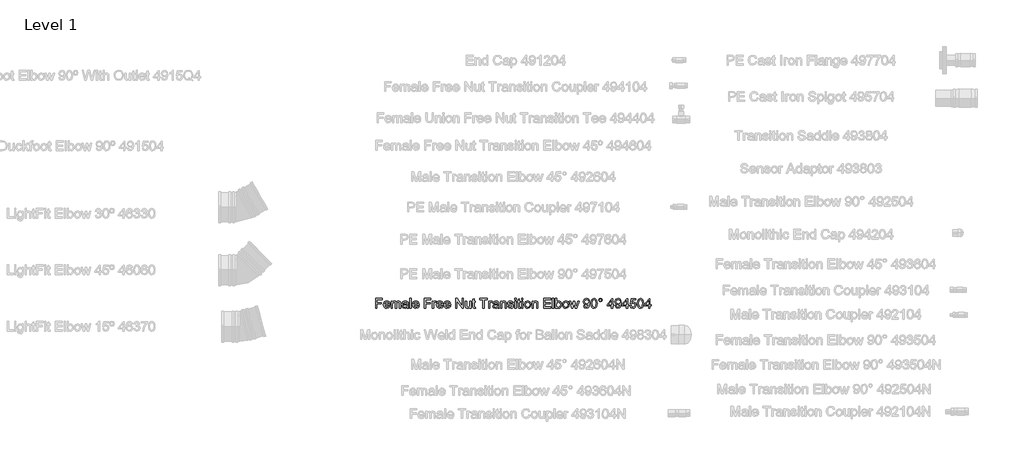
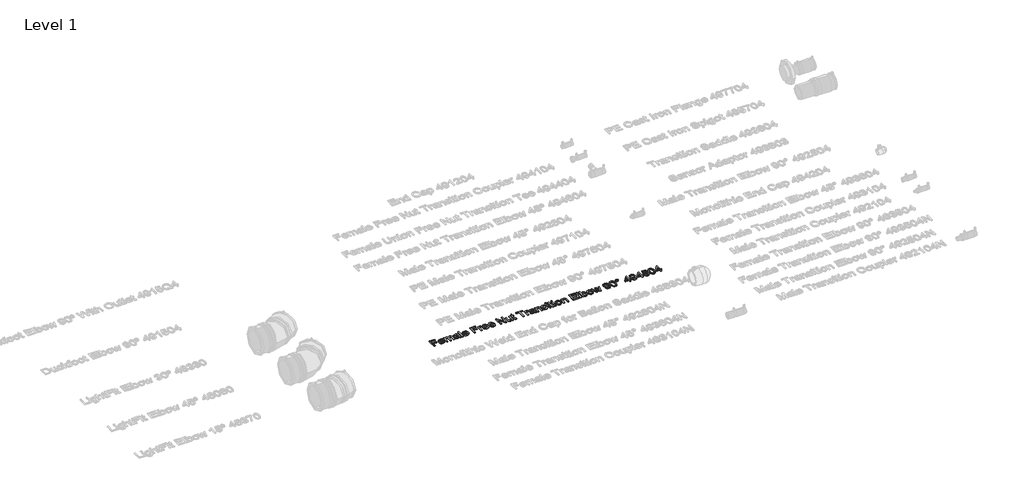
# One storey, part 20 of 38: 1 proxy.
"""IFC4 building model written with IfcOpenShell, lengths in millimetres."""

from ifc_helpers import new_model, si_unit, origin, origin_with_axes, place, context, project, spatial, polyline, outline, extrude, element, save

model = new_model("IFC4")

# Units and contexts
model_context = context("Model", 3, world=origin())
ifc_project = project(units=[si_unit("LENGTHUNIT", "METRE", prefix="MILLI")], contexts=[model_context])

# Site, building, storey
site = spatial("IfcSite", under=ifc_project)
building = spatial("IfcBuilding", under=site)
storey = spatial("IfcBuildingStorey", under=building, Name="Level 1", Elevation=0.0)

# Proxy
placement = place(None, origin())
element("IfcBuildingElementProxy", 1, Name="100 mm Arial", ObjectType="100 mm Arial", at=placement, inside=storey, context=model_context, shape_type="SweptSolid", body=[
    extrude(outline(polyline([(15478.6595524, 3604.446795), (15478.6595524, 3663.523718), (15518.3518601, 3663.523718), (15518.3518601, 3656.1391027), (15486.0441677, 3656.1391027), (15486.0441677, 3638.6006411), (15513.7364754, 3638.6006411), (15513.7364754, 3631.2160257), (15486.0441677, 3631.2160257), (15486.0441677, 3604.446795), (15478.6595524, 3604.446795)])), origin_with_axes(), (0.0, 0.0, 1.0), 5.0),
    extrude(outline(polyline([(15557.9576293, 3617.3698719), (15565.1980139, 3616.446795), (15558.4263793, 3606.9131411), (15545.8133985, 3603.523718), (15537.1487351, 3604.9858575), (15530.4816677, 3609.3722757), (15526.2304658, 3616.3981171), (15524.8133985, 3625.7785257), (15526.2448889, 3635.4744392), (15530.5393601, 3642.7256411), (15537.1162831, 3647.2472757), (15545.3951293, 3648.7544873), (15553.4161629, 3647.2508815), (15559.8254177, 3642.7400642), (15564.0279418, 3635.5032853), (15565.4287831, 3625.821795), (15565.3855139, 3623.8314103), (15532.1980139, 3623.8314103), (15536.4456101, 3614.2400642), (15545.9576293, 3610.9083334), (15553.1980139, 3612.4516027), (15557.9576293, 3617.3698719)]), holes=[polyline([(15532.1980139, 3631.2160257), (15558.0441677, 3631.2160257), (15555.087437, 3637.9083334), (15545.3662831, 3641.3698719), (15536.2725331, 3638.6078527), (15532.1980139, 3631.2160257)])]), origin_with_axes(), (0.0, 0.0, 1.0), 5.0),
    extrude(outline(polyline([(15572.8133985, 3604.446795), (15572.8133985, 3647.8314103), (15580.1980139, 3647.8314103), (15580.1980139, 3640.6919873), (15585.274937, 3646.540545), (15592.5008985, 3648.7544873), (15599.899937, 3646.4972757), (15603.9672447, 3640.1727565), (15609.7292639, 3646.6090546), (15617.0057062, 3648.7544873), (15626.6619562, 3645.1847757), (15630.0441677, 3634.1871796), (15630.0441677, 3604.446795), (15622.6595524, 3604.446795), (15622.6595524, 3631.0141027), (15621.9744562, 3637.179968), (15619.493687, 3640.2160257), (15615.274937, 3641.3698719), (15608.0129177, 3638.4131411), (15605.1210908, 3628.9371796), (15605.1210908, 3604.446795), (15597.7364754, 3604.446795), (15597.7364754, 3631.836218), (15596.0273408, 3638.9900642), (15590.4239754, 3641.3698719), (15584.9576293, 3639.7833334), (15581.3230139, 3635.1391027), (15580.1980139, 3626.3266027), (15580.1980139, 3604.446795), (15572.8133985, 3604.446795)])), origin_with_axes(), (0.0, 0.0, 1.0), 5.0),
    extrude(outline(polyline([(15668.8133985, 3609.9852565), (15661.6523408, 3604.9804488), (15653.7412831, 3603.523718), (15643.0177254, 3607.0285257), (15639.274937, 3615.9852565), (15640.6883985, 3621.8266027), (15644.4023408, 3626.0669873), (15649.5730139, 3628.4900642), (15655.962437, 3629.6006411), (15668.7701293, 3632.1391027), (15668.8133985, 3633.7833334), (15666.7797447, 3639.2352565), (15658.6162831, 3641.3698719), (15651.1451293, 3639.9491988), (15647.5826293, 3634.9083334), (15640.1980139, 3635.8314103), (15643.3927254, 3643.0429488), (15649.8254177, 3647.2689103), (15659.5682062, 3648.7544873), (15668.5177254, 3647.4419873), (15673.5730139, 3644.1463142), (15675.837437, 3639.134295), (15676.1980139, 3632.6727565), (15676.1980139, 3623.4852565), (15676.5730139, 3610.6559296), (15678.0441677, 3604.446795), (15670.6595524, 3604.446795), (15668.8133985, 3609.9852565)]), holes=[polyline([(15668.8133985, 3624.7544873), (15656.899937, 3622.4900642), (15650.5465716, 3621.2929488), (15647.6691677, 3619.3458334), (15646.6595524, 3616.5044873), (15648.8590716, 3612.509295), (15655.3133985, 3610.9083334), (15662.7845524, 3612.6751603), (15667.6018601, 3616.9516027), (15668.7701293, 3622.6631411), (15668.8133985, 3624.7544873)])]), origin_with_axes(), (0.0, 0.0, 1.0), 5.0),
    extrude(outline(polyline([(15686.3518601, 3604.446795), (15686.3518601, 3663.523718), (15693.7364754, 3663.523718), (15693.7364754, 3604.446795), (15686.3518601, 3604.446795)])), origin_with_axes(), (0.0, 0.0, 1.0), 5.0),
    extrude(outline(polyline([(15735.1883985, 3617.3698719), (15742.4287831, 3616.446795), (15735.6571485, 3606.9131411), (15723.0441677, 3603.523718), (15714.3795043, 3604.9858575), (15707.712437, 3609.3722757), (15703.4612351, 3616.3981171), (15702.0441677, 3625.7785257), (15703.4756581, 3635.4744392), (15707.7701293, 3642.7256411), (15714.3470524, 3647.2472757), (15722.6258985, 3648.7544873), (15730.6469322, 3647.2508815), (15737.056187, 3642.7400642), (15741.258711, 3635.5032853), (15742.6595524, 3625.821795), (15742.6162831, 3623.8314103), (15709.4287831, 3623.8314103), (15713.6763793, 3614.2400642), (15723.1883985, 3610.9083334), (15730.4287831, 3612.4516027), (15735.1883985, 3617.3698719)]), holes=[polyline([(15709.4287831, 3631.2160257), (15735.274937, 3631.2160257), (15732.3182062, 3637.9083334), (15722.5970524, 3641.3698719), (15713.5033024, 3638.6078527), (15709.4287831, 3631.2160257)])]), origin_with_axes(), (0.0, 0.0, 1.0), 5.0),
    extrude(outline(polyline([(15774.0441677, 3604.446795), (15774.0441677, 3663.523718), (15813.7364754, 3663.523718), (15813.7364754, 3656.1391027), (15781.4287831, 3656.1391027), (15781.4287831, 3638.6006411), (15809.1210908, 3638.6006411), (15809.1210908, 3631.2160257), (15781.4287831, 3631.2160257), (15781.4287831, 3604.446795), (15774.0441677, 3604.446795)])), origin_with_axes(), (0.0, 0.0, 1.0), 5.0),
    extrude(outline(polyline([(15822.9672447, 3604.446795), (15822.9672447, 3647.8314103), (15829.4287831, 3647.8314103), (15829.4287831, 3641.4131411), (15834.0153216, 3647.3266027), (15838.6307062, 3648.7544873), (15846.0441677, 3646.4756411), (15843.5778216, 3639.8554488), (15838.3855139, 3641.3698719), (15834.2100331, 3639.9131411), (15831.5489754, 3635.8746796), (15830.3518601, 3627.2496796), (15830.3518601, 3604.446795), (15822.9672447, 3604.446795)])), origin_with_axes(), (0.0, 0.0, 1.0), 5.0),
    extrude(outline(polyline([(15881.0345524, 3617.3698719), (15888.274937, 3616.446795), (15881.5033024, 3606.9131411), (15868.8903216, 3603.523718), (15860.2256581, 3604.9858575), (15853.5585908, 3609.3722757), (15849.3073889, 3616.3981171), (15847.8903216, 3625.7785257), (15849.321812, 3635.4744392), (15853.6162831, 3642.7256411), (15860.1932062, 3647.2472757), (15868.4720524, 3648.7544873), (15876.493086, 3647.2508815), (15882.9023408, 3642.7400642), (15887.1048649, 3635.5032853), (15888.5057062, 3625.821795), (15888.462437, 3623.8314103), (15855.274937, 3623.8314103), (15859.5225331, 3614.2400642), (15869.0345524, 3610.9083334), (15876.274937, 3612.4516027), (15881.0345524, 3617.3698719)]), holes=[polyline([(15855.274937, 3631.2160257), (15881.1210908, 3631.2160257), (15878.1643601, 3637.9083334), (15868.4432062, 3641.3698719), (15859.3494562, 3638.6078527), (15855.274937, 3631.2160257)])]), origin_with_axes(), (0.0, 0.0, 1.0), 5.0),
    extrude(outline(polyline([(15926.2653216, 3617.3698719), (15933.5057062, 3616.446795), (15926.7340716, 3606.9131411), (15914.1210908, 3603.523718), (15905.4564274, 3604.9858575), (15898.7893601, 3609.3722757), (15894.5381581, 3616.3981171), (15893.1210908, 3625.7785257), (15894.5525812, 3635.4744392), (15898.8470524, 3642.7256411), (15905.4239754, 3647.2472757), (15913.7028216, 3648.7544873), (15921.7238552, 3647.2508815), (15928.1331101, 3642.7400642), (15932.3356341, 3635.5032853), (15933.7364754, 3625.821795), (15933.6932062, 3623.8314103), (15900.5057062, 3623.8314103), (15904.7533024, 3614.2400642), (15914.2653216, 3610.9083334), (15921.5057062, 3612.4516027), (15926.2653216, 3617.3698719)]), holes=[polyline([(15900.5057062, 3631.2160257), (15926.3518601, 3631.2160257), (15923.3951293, 3637.9083334), (15913.6739754, 3641.3698719), (15904.5802254, 3638.6078527), (15900.5057062, 3631.2160257)])]), origin_with_axes(), (0.0, 0.0, 1.0), 5.0),
    extrude(outline(polyline([(15965.1210908, 3604.446795), (15965.1210908, 3663.523718), (15973.024937, 3663.523718), (16003.8903216, 3616.7208334), (16003.8903216, 3663.523718), (16011.274937, 3663.523718), (16011.274937, 3604.446795), (16003.3710908, 3604.446795), (15972.5057062, 3651.2641027), (15972.5057062, 3604.446795), (15965.1210908, 3604.446795)])), origin_with_axes(), (0.0, 0.0, 1.0), 5.0),
    extrude(outline(polyline([(16050.9672447, 3604.446795), (16050.9672447, 3611.9035257), (16045.1835908, 3605.61867), (16037.6403216, 3603.523718), (16030.6956101, 3604.9948719), (16025.9071485, 3608.6871796), (16023.7076293, 3614.1246796), (16023.274937, 3620.9900642), (16023.274937, 3647.8314103), (16030.6595524, 3647.8314103), (16030.6595524, 3624.4660257), (16031.1066677, 3616.9371796), (16034.0273408, 3612.5165065), (16039.5297447, 3610.9083334), (16045.6956101, 3612.5525642), (16049.7701293, 3617.0309296), (16050.9672447, 3625.259295), (16050.9672447, 3647.8314103), (16058.3518601, 3647.8314103), (16058.3518601, 3604.446795), (16050.9672447, 3604.446795)])), origin_with_axes(), (0.0, 0.0, 1.0), 5.0),
    extrude(outline(polyline([(16084.1980139, 3610.6054488), (16085.1210908, 3604.2304488), (16079.5970524, 3603.523718), (16073.4095524, 3604.7496796), (16070.3230139, 3607.9660257), (16069.4287831, 3616.3458334), (16069.4287831, 3640.446795), (16063.8903216, 3640.446795), (16063.8903216, 3647.8314103), (16069.4287831, 3647.8314103), (16069.4287831, 3658.3746796), (16076.8133985, 3662.7160257), (16076.8133985, 3647.8314103), (16084.1980139, 3647.8314103), (16084.1980139, 3640.446795), (16076.8133985, 3640.446795), (16076.8133985, 3616.5621796), (16077.2028216, 3612.7544873), (16078.4648408, 3611.4059296), (16080.9816677, 3610.9083334), (16084.1980139, 3610.6054488)])), origin_with_axes(), (0.0, 0.0, 1.0), 5.0),
    extrude(outline(polyline([(16130.3518601, 3604.446795), (16130.3518601, 3656.1391027), (16110.9672447, 3656.1391027), (16110.9672447, 3663.523718), (16157.1210908, 3663.523718), (16157.1210908, 3656.1391027), (16137.7364754, 3656.1391027), (16137.7364754, 3604.446795), (16130.3518601, 3604.446795)])), origin_with_axes(), (0.0, 0.0, 1.0), 5.0),
    extrude(outline(polyline([(16164.5057062, 3604.446795), (16164.5057062, 3647.8314103), (16170.9672447, 3647.8314103), (16170.9672447, 3641.4131411), (16175.5537831, 3647.3266027), (16180.1691677, 3648.7544873), (16187.5826293, 3646.4756411), (16185.1162831, 3639.8554488), (16179.9239754, 3641.3698719), (16175.7484947, 3639.9131411), (16173.087437, 3635.8746796), (16171.8903216, 3627.2496796), (16171.8903216, 3604.446795), (16164.5057062, 3604.446795)])), origin_with_axes(), (0.0, 0.0, 1.0), 5.0),
    extrude(outline(polyline([(16219.8903216, 3609.9852565), (16212.7292639, 3604.9804488), (16204.8182062, 3603.523718), (16194.0946485, 3607.0285257), (16190.3518601, 3615.9852565), (16191.7653216, 3621.8266027), (16195.4792639, 3626.0669873), (16200.649937, 3628.4900642), (16207.0393601, 3629.6006411), (16219.8470524, 3632.1391027), (16219.8903216, 3633.7833334), (16217.8566677, 3639.2352565), (16209.6932062, 3641.3698719), (16202.2220524, 3639.9491988), (16198.6595524, 3634.9083334), (16191.274937, 3635.8314103), (16194.4696485, 3643.0429488), (16200.9023408, 3647.2689103), (16210.6451293, 3648.7544873), (16219.5946485, 3647.4419873), (16224.649937, 3644.1463142), (16226.9143601, 3639.134295), (16227.274937, 3632.6727565), (16227.274937, 3623.4852565), (16227.649937, 3610.6559296), (16229.1210908, 3604.446795), (16221.7364754, 3604.446795), (16219.8903216, 3609.9852565)]), holes=[polyline([(16219.8903216, 3624.7544873), (16207.9768601, 3622.4900642), (16201.6234947, 3621.2929488), (16198.7460908, 3619.3458334), (16197.7364754, 3616.5044873), (16199.9359947, 3612.509295), (16206.3903216, 3610.9083334), (16213.8614754, 3612.6751603), (16218.6787831, 3616.9516027), (16219.8470524, 3622.6631411), (16219.8903216, 3624.7544873)])]), origin_with_axes(), (0.0, 0.0, 1.0), 5.0),
    extrude(outline(polyline([(16237.4287831, 3604.446795), (16237.4287831, 3647.8314103), (16244.8133985, 3647.8314103), (16244.8133985, 3641.773718), (16250.4600331, 3647.009295), (16258.1691677, 3648.7544873), (16265.1427254, 3647.3482373), (16269.9023408, 3643.6559296), (16272.1162831, 3638.2256411), (16272.5057062, 3631.086218), (16272.5057062, 3604.446795), (16265.1210908, 3604.446795), (16265.1210908, 3630.0910257), (16264.2701293, 3636.6246796), (16261.2629177, 3640.0790065), (16256.1932062, 3641.3698719), (16248.181187, 3638.4708334), (16244.8133985, 3627.4660257), (16244.8133985, 3604.446795), (16237.4287831, 3604.446795)])), origin_with_axes(), (0.0, 0.0, 1.0), 5.0),
    extrude(outline(polyline([(16279.8903216, 3617.3698719), (16287.274937, 3618.2929488), (16290.6932062, 3612.8121796), (16298.524937, 3610.9083334), (16306.0537831, 3612.6535257), (16308.5057062, 3616.7496796), (16306.0393601, 3620.0669873), (16298.4383985, 3622.1727565), (16287.3182062, 3625.7857373), (16282.4648408, 3630.0044873), (16280.8133985, 3635.961218), (16282.1403216, 3641.4636219), (16285.7605139, 3645.6679488), (16290.4552254, 3647.853045), (16296.8085908, 3648.7544873), (16305.7941677, 3647.304968), (16311.5057062, 3643.3818911), (16314.0441677, 3636.7544873), (16306.6595524, 3635.8314103), (16303.8831101, 3639.9059296), (16297.3855139, 3641.3698719), (16290.3182062, 3639.9708334), (16288.1980139, 3636.711218), (16289.0778216, 3634.5621796), (16291.8326293, 3632.9323719), (16298.1932062, 3631.3602565), (16309.0321485, 3627.884295), (16314.0658024, 3623.946795), (16315.8903216, 3617.5285257), (16313.7484947, 3610.461218), (16307.5682062, 3605.3338142), (16298.4239754, 3603.523718), (16285.5441677, 3607.0141027), (16279.8903216, 3617.3698719)])), origin_with_axes(), (0.0, 0.0, 1.0), 5.0),
    extrude(outline(polyline([(16324.1980139, 3604.446795), (16324.1980139, 3647.8314103), (16331.5826293, 3647.8314103), (16331.5826293, 3604.446795), (16324.1980139, 3604.446795)])), origin_with_axes(), (0.0, 0.0, 1.0), 5.0),
    extrude(outline(polyline([(16324.1980139, 3656.1391027), (16324.1980139, 3663.523718), (16331.5826293, 3663.523718), (16331.5826293, 3656.1391027), (16324.1980139, 3656.1391027)])), origin_with_axes(), (0.0, 0.0, 1.0), 5.0),
    extrude(outline(polyline([(16358.3518601, 3610.6054488), (16359.274937, 3604.2304488), (16353.7508985, 3603.523718), (16347.5633985, 3604.7496796), (16344.4768601, 3607.9660257), (16343.5826293, 3616.3458334), (16343.5826293, 3640.446795), (16338.0441677, 3640.446795), (16338.0441677, 3647.8314103), (16343.5826293, 3647.8314103), (16343.5826293, 3658.3746796), (16350.9672447, 3662.7160257), (16350.9672447, 3647.8314103), (16358.3518601, 3647.8314103), (16358.3518601, 3640.446795), (16350.9672447, 3640.446795), (16350.9672447, 3616.5621796), (16351.3566677, 3612.7544873), (16352.618687, 3611.4059296), (16355.1355139, 3610.9083334), (16358.3518601, 3610.6054488)])), origin_with_axes(), (0.0, 0.0, 1.0), 5.0),
    extrude(outline(polyline([(16365.7364754, 3656.1391027), (16365.7364754, 3663.523718), (16373.1210908, 3663.523718), (16373.1210908, 3656.1391027), (16365.7364754, 3656.1391027)])), origin_with_axes(), (0.0, 0.0, 1.0), 5.0),
    extrude(outline(polyline([(16365.7364754, 3604.446795), (16365.7364754, 3647.8314103), (16373.1210908, 3647.8314103), (16373.1210908, 3604.446795), (16365.7364754, 3604.446795)])), origin_with_axes(), (0.0, 0.0, 1.0), 5.0),
    extrude(outline(polyline([(16382.3518601, 3626.1391027), (16383.9492158, 3636.5994392), (16388.7412831, 3643.9516027), (16401.7508985, 3648.7544873), (16409.508711, 3647.2923478), (16415.7052254, 3642.9059296), (16419.7671245, 3635.9413863), (16421.1210908, 3626.7448719), (16418.7268601, 3613.6054488), (16411.7533024, 3606.1703527), (16401.7508985, 3603.523718), (16393.899336, 3604.9804488), (16387.7100331, 3609.3506411), (16383.6914033, 3616.461218), (16382.3518601, 3626.1391027)]), holes=[polyline([(16389.7364754, 3626.1535257), (16393.1547447, 3614.7088142), (16401.7508985, 3610.9083334), (16410.3182062, 3614.7304488), (16413.7364754, 3626.384295), (16410.2965716, 3637.5693911), (16401.7508985, 3641.3698719), (16393.1547447, 3637.5838142), (16389.7364754, 3626.1535257)])]), origin_with_axes(), (0.0, 0.0, 1.0), 5.0),
    extrude(outline(polyline([(16429.4287831, 3604.446795), (16429.4287831, 3647.8314103), (16436.8133985, 3647.8314103), (16436.8133985, 3641.773718), (16442.4600331, 3647.009295), (16450.1691677, 3648.7544873), (16457.1427254, 3647.3482373), (16461.9023408, 3643.6559296), (16464.1162831, 3638.2256411), (16464.5057062, 3631.086218), (16464.5057062, 3604.446795), (16457.1210908, 3604.446795), (16457.1210908, 3630.0910257), (16456.2701293, 3636.6246796), (16453.2629177, 3640.0790065), (16448.1932062, 3641.3698719), (16440.181187, 3638.4708334), (16436.8133985, 3627.4660257), (16436.8133985, 3604.446795), (16429.4287831, 3604.446795)])), origin_with_axes(), (0.0, 0.0, 1.0), 5.0),
    extrude(outline(polyline([(16498.6595524, 3604.446795), (16498.6595524, 3663.523718), (16541.1210908, 3663.523718), (16541.1210908, 3656.1391027), (16506.0441677, 3656.1391027), (16506.0441677, 3638.6006411), (16539.274937, 3638.6006411), (16539.274937, 3631.2160257), (16506.0441677, 3631.2160257), (16506.0441677, 3611.8314103), (16542.0441677, 3611.8314103), (16542.0441677, 3604.446795), (16498.6595524, 3604.446795)])), origin_with_axes(), (0.0, 0.0, 1.0), 5.0),
    extrude(outline(polyline([(16552.1980139, 3604.446795), (16552.1980139, 3663.523718), (16559.5826293, 3663.523718), (16559.5826293, 3604.446795), (16552.1980139, 3604.446795)])), origin_with_axes(), (0.0, 0.0, 1.0), 5.0),
    extrude(outline(polyline([(16578.0441677, 3604.446795), (16570.6595524, 3604.446795), (16570.6595524, 3663.523718), (16578.0441677, 3663.523718), (16578.0441677, 3641.6150642), (16583.2148408, 3646.9696315), (16589.6403216, 3648.7544873), (16597.0393601, 3647.1463142), (16602.7797447, 3642.6246796), (16606.306187, 3635.5934296), (16607.5826293, 3626.7881411), (16606.2611149, 3616.929968), (16602.2965716, 3609.5958334), (16596.4786629, 3605.0417469), (16589.5970524, 3603.523718), (16583.0309466, 3605.4816507), (16578.0441677, 3611.3554488), (16578.0441677, 3604.446795)]), holes=[polyline([(16578.0441677, 3626.4419873), (16580.0633985, 3616.1150642), (16588.962437, 3610.9083334), (16596.8662831, 3614.7448719), (16600.1980139, 3626.1823719), (16597.0033024, 3637.6631411), (16589.2797447, 3641.3698719), (16581.3758985, 3637.5333334), (16578.0441677, 3626.4419873)])]), origin_with_axes(), (0.0, 0.0, 1.0), 5.0),
    extrude(outline(polyline([(16614.0441677, 3626.1391027), (16615.6415235, 3636.5994392), (16620.4335908, 3643.9516027), (16633.4432062, 3648.7544873), (16641.2010187, 3647.2923478), (16647.3975331, 3642.9059296), (16651.4594322, 3635.9413863), (16652.8133985, 3626.7448719), (16650.4191677, 3613.6054488), (16643.4456101, 3606.1703527), (16633.4432062, 3603.523718), (16625.5916437, 3604.9804488), (16619.4023408, 3609.3506411), (16615.383711, 3616.461218), (16614.0441677, 3626.1391027)]), holes=[polyline([(16621.4287831, 3626.1535257), (16624.8470524, 3614.7088142), (16633.4432062, 3610.9083334), (16642.0105139, 3614.7304488), (16645.4287831, 3626.384295), (16641.9888793, 3637.5693911), (16633.4432062, 3641.3698719), (16624.8470524, 3637.5838142), (16621.4287831, 3626.1535257)])]), origin_with_axes(), (0.0, 0.0, 1.0), 5.0),
    extrude(outline(polyline([(16668.3182062, 3604.446795), (16655.1210908, 3647.8314103), (16662.7941677, 3647.8314103), (16670.2797447, 3622.5189103), (16672.5153216, 3613.4756411), (16674.3470524, 3622.1871796), (16680.3037831, 3647.8314103), (16689.1018601, 3647.8314103), (16695.0297447, 3622.259295), (16696.6595524, 3614.3698719), (16698.9960908, 3622.6919873), (16706.4960908, 3647.8314103), (16714.1980139, 3647.8314103), (16700.899937, 3604.446795), (16691.9720524, 3604.446795), (16686.3037831, 3629.8891027), (16684.6595524, 3637.821795), (16677.3470524, 3604.446795), (16668.3182062, 3604.446795)])), origin_with_axes(), (0.0, 0.0, 1.0), 5.0),
    extrude(outline(polyline([(16741.4287831, 3619.2160257), (16748.8133985, 3620.1391027), (16752.1307062, 3613.0934296), (16758.4191677, 3610.9083334), (16764.3975331, 3612.3145834), (16768.4504177, 3616.071795), (16770.8662831, 3622.4900642), (16771.9335908, 3631.0573719), (16765.9840716, 3626.9035257), (16757.8855139, 3624.7544873), (16745.5465716, 3630.0044873), (16740.5057062, 3643.836218), (16745.7917639, 3658.1150642), (16759.0393601, 3663.523718), (16769.5609947, 3660.4371796), (16776.8013793, 3651.6391027), (16779.274937, 3635.1102565), (16776.8085908, 3617.1751603), (16769.4744562, 3607.0141027), (16758.0730139, 3603.523718), (16746.7220524, 3607.6415065), (16741.4287831, 3619.2160257)]), holes=[polyline([(16771.8903216, 3644.009295), (16768.7028216, 3652.8650642), (16760.2364754, 3656.1391027), (16751.3518601, 3652.6126603), (16747.8903216, 3643.4756411), (16751.1643601, 3635.290545), (16760.0345524, 3632.1391027), (16768.5513793, 3635.290545), (16771.8903216, 3644.009295)])]), origin_with_axes(), (0.0, 0.0, 1.0), 5.0),
    extrude(outline(polyline([(16785.7364754, 3633.509295), (16787.9071485, 3650.5068911), (16794.3542639, 3660.3073719), (16805.1210908, 3663.523718), (16813.7460908, 3661.6198719), (16819.7028216, 3656.1318911), (16823.1643601, 3647.3915065), (16824.5057062, 3633.509295), (16822.3566677, 3616.5838142), (16815.931187, 3606.7616988), (16805.1210908, 3603.523718), (16797.4480139, 3604.929968), (16791.6210908, 3609.148718), (16787.2076293, 3619.1403046), (16785.7364754, 3633.509295)]), holes=[polyline([(16793.1210908, 3633.523718), (16796.5826293, 3615.1847757), (16805.1210908, 3610.9083334), (16813.6595524, 3615.1991988), (16817.1210908, 3633.523718), (16813.774937, 3651.6535257), (16805.0345524, 3656.1391027), (16796.6980139, 3652.1871796), (16793.1210908, 3633.523718)])]), origin_with_axes(), (0.0, 0.0, 1.0), 5.0),
    extrude(outline(polyline([(16832.8133985, 3653.384295), (16836.0658024, 3661.2160257), (16843.8758985, 3664.446795), (16851.7364754, 3661.2160257), (16854.9672447, 3653.384295), (16851.7148408, 3645.5453527), (16843.8758985, 3642.2929488), (16836.0658024, 3645.523718), (16832.8133985, 3653.384295)]), holes=[polyline([(16837.4287831, 3653.3698719), (16839.3254177, 3648.7977565), (16843.9047447, 3646.9083334), (16848.4552254, 3648.7977565), (16850.3518601, 3653.3698719), (16848.4552254, 3657.9419873), (16843.9047447, 3659.8314103), (16839.3254177, 3657.9419873), (16837.4287831, 3653.3698719)])]), origin_with_axes(), (0.0, 0.0, 1.0), 5.0),
    extrude(outline(polyline([(16911.274937, 3604.446795), (16911.274937, 3618.2929488), (16884.5057062, 3618.2929488), (16884.5057062, 3625.6775642), (16913.1210908, 3662.6006411), (16918.6595524, 3662.6006411), (16918.6595524, 3625.6775642), (16926.0441677, 3625.6775642), (16926.0441677, 3618.2929488), (16918.6595524, 3618.2929488), (16918.6595524, 3604.446795), (16911.274937, 3604.446795)]), holes=[polyline([(16911.274937, 3625.6775642), (16911.274937, 3648.4948719), (16893.5922447, 3625.6775642), (16911.274937, 3625.6775642)])]), origin_with_axes(), (0.0, 0.0, 1.0), 5.0),
    extrude(outline(polyline([(16933.4287831, 3619.2160257), (16940.8133985, 3620.1391027), (16944.1307062, 3613.0934296), (16950.4191677, 3610.9083334), (16956.3975331, 3612.3145834), (16960.4504177, 3616.071795), (16962.8662831, 3622.4900642), (16963.9335908, 3631.0573719), (16957.9840716, 3626.9035257), (16949.8855139, 3624.7544873), (16937.5465716, 3630.0044873), (16932.5057062, 3643.836218), (16937.7917639, 3658.1150642), (16951.0393601, 3663.523718), (16961.5609947, 3660.4371796), (16968.8013793, 3651.6391027), (16971.274937, 3635.1102565), (16968.8085908, 3617.1751603), (16961.4744562, 3607.0141027), (16950.0730139, 3603.523718), (16938.7220524, 3607.6415065), (16933.4287831, 3619.2160257)]), holes=[polyline([(16963.8903216, 3644.009295), (16960.7028216, 3652.8650642), (16952.2364754, 3656.1391027), (16943.3518601, 3652.6126603), (16939.8903216, 3643.4756411), (16943.1643601, 3635.290545), (16952.0345524, 3632.1391027), (16960.5513793, 3635.290545), (16963.8903216, 3644.009295)])]), origin_with_axes(), (0.0, 0.0, 1.0), 5.0),
    extrude(outline(polyline([(17001.7364754, 3604.446795), (17001.7364754, 3618.2929488), (16974.9672447, 3618.2929488), (16974.9672447, 3625.6775642), (17003.5826293, 3662.6006411), (17009.1210908, 3662.6006411), (17009.1210908, 3625.6775642), (17016.5057062, 3625.6775642), (17016.5057062, 3618.2929488), (17009.1210908, 3618.2929488), (17009.1210908, 3604.446795), (17001.7364754, 3604.446795)]), holes=[polyline([(17001.7364754, 3625.6775642), (17001.7364754, 3648.4948719), (16984.0537831, 3625.6775642), (17001.7364754, 3625.6775642)])]), origin_with_axes(), (0.0, 0.0, 1.0), 5.0),
    extrude(outline(polyline([(17022.9672447, 3620.1391027), (17030.3518601, 3621.0621796), (17034.0730139, 3613.4540065), (17041.7893601, 3610.9083334), (17051.0489754, 3614.4491988), (17054.3518601, 3623.8458334), (17051.2581101, 3632.6150642), (17041.9047447, 3635.8314103), (17035.4215716, 3634.5477565), (17031.274937, 3631.2160257), (17023.8903216, 3632.1391027), (17030.3518601, 3662.6006411), (17058.9672447, 3662.6006411), (17058.9672447, 3655.2160257), (17036.3230139, 3655.2160257), (17033.1643601, 3638.946795), (17043.9672447, 3643.2160257), (17056.5946485, 3637.9227565), (17061.7364754, 3624.3073719), (17057.1066677, 3610.6054488), (17050.4576293, 3605.2941507), (17041.7605139, 3603.523718), (17028.7292639, 3608.0741988), (17022.9672447, 3620.1391027)])), origin_with_axes(), (0.0, 0.0, 1.0), 5.0),
    extrude(outline(polyline([(17068.1980139, 3633.509295), (17070.368687, 3650.5068911), (17076.8158024, 3660.3073719), (17087.5826293, 3663.523718), (17096.2076293, 3661.6198719), (17102.1643601, 3656.1318911), (17105.6258985, 3647.3915065), (17106.9672447, 3633.509295), (17104.8182062, 3616.5838142), (17098.3927254, 3606.7616988), (17087.5826293, 3603.523718), (17079.9095524, 3604.929968), (17074.0826293, 3609.148718), (17069.6691677, 3619.1403046), (17068.1980139, 3633.509295)]), holes=[polyline([(17075.5826293, 3633.523718), (17079.0441677, 3615.1847757), (17087.5826293, 3610.9083334), (17096.1210908, 3615.1991988), (17099.5826293, 3633.523718), (17096.2364754, 3651.6535257), (17087.4960908, 3656.1391027), (17079.1595524, 3652.1871796), (17075.5826293, 3633.523718)])]), origin_with_axes(), (0.0, 0.0, 1.0), 5.0),
    extrude(outline(polyline([(17137.4287831, 3604.446795), (17137.4287831, 3618.2929488), (17110.6595524, 3618.2929488), (17110.6595524, 3625.6775642), (17139.274937, 3662.6006411), (17144.8133985, 3662.6006411), (17144.8133985, 3625.6775642), (17152.1980139, 3625.6775642), (17152.1980139, 3618.2929488), (17144.8133985, 3618.2929488), (17144.8133985, 3604.446795), (17137.4287831, 3604.446795)]), holes=[polyline([(17137.4287831, 3625.6775642), (17137.4287831, 3648.4948719), (17119.7460908, 3625.6775642), (17137.4287831, 3625.6775642)])]), origin_with_axes(), (0.0, 0.0, 1.0), 5.0),
])

save(model, "model.ifc")
